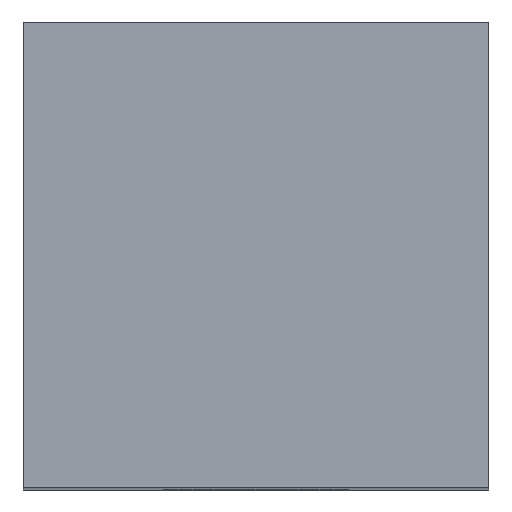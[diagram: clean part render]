
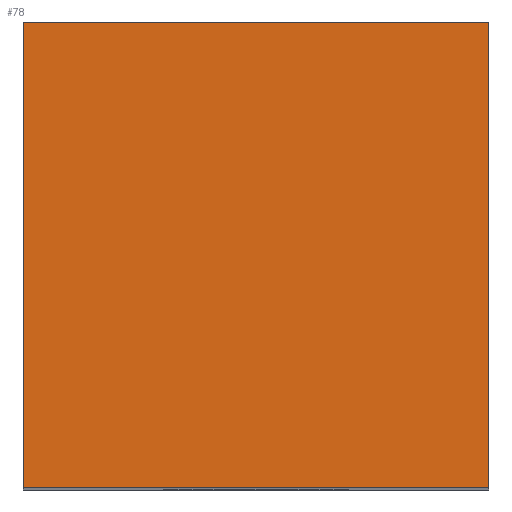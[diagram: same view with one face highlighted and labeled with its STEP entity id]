
A CAD part, top view. The second image highlights one B-rep face of the part: STEP entity #78.
In plain terms, the highlighted planar face has unit normal (0, 0, 1).
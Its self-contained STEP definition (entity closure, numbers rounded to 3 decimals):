
#48=FACE_OUTER_BOUND('',#129,.T.);
#50=LINE('',#340,#62);
#58=LINE('',#356,#70);
#59=LINE('',#362,#71);
#60=LINE('',#363,#72);
#62=VECTOR('',#281,1.);
#70=VECTOR('',#293,1.);
#71=VECTOR('',#300,1.);
#72=VECTOR('',#301,1.);
#78=ADVANCED_FACE('',(#48),#91,.T.);
#91=PLANE('',#252);
#129=EDGE_LOOP('',(#164,#165,#166,#167));
#164=ORIENTED_EDGE('',*,*,#224,.T.);
#165=ORIENTED_EDGE('',*,*,#221,.F.);
#166=ORIENTED_EDGE('',*,*,#225,.F.);
#167=ORIENTED_EDGE('',*,*,#213,.F.);
#195=VERTEX_POINT('',#339);
#196=VERTEX_POINT('',#341);
#200=VERTEX_POINT('',#353);
#201=VERTEX_POINT('',#355);
#213=EDGE_CURVE('',#195,#196,#50,.T.);
#221=EDGE_CURVE('',#201,#200,#58,.T.);
#224=EDGE_CURVE('',#195,#200,#59,.T.);
#225=EDGE_CURVE('',#196,#201,#60,.T.);
#252=AXIS2_PLACEMENT_3D('',#364,#302,#303);
#281=DIRECTION('',(-1.,0.,0.));
#293=DIRECTION('',(1.,0.,0.));
#300=DIRECTION('',(0.,1.,0.));
#301=DIRECTION('',(0.,1.,0.));
#302=DIRECTION('',(0.,0.,1.));
#303=DIRECTION('',(1.,0.,0.));
#339=CARTESIAN_POINT('',(0.,0.,72.));
#340=CARTESIAN_POINT('',(-20.,0.,72.));
#341=CARTESIAN_POINT('',(-20.,0.,72.));
#353=CARTESIAN_POINT('',(0.,20.,72.));
#355=CARTESIAN_POINT('',(-20.,20.,72.));
#356=CARTESIAN_POINT('',(-20.,20.,72.));
#362=CARTESIAN_POINT('',(0.,12.,72.));
#363=CARTESIAN_POINT('',(-20.,12.,72.));
#364=CARTESIAN_POINT('',(-20.,12.,72.));
